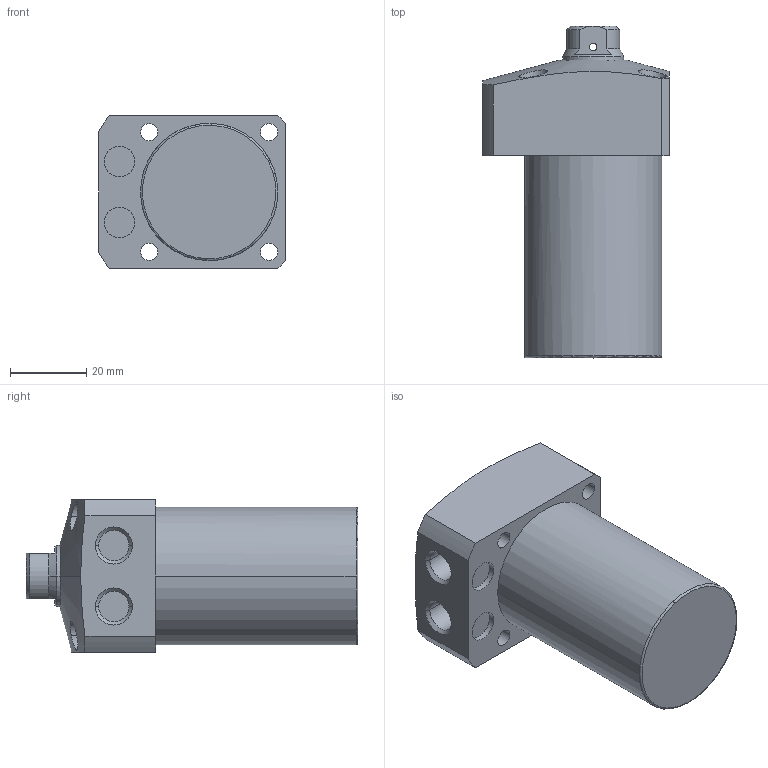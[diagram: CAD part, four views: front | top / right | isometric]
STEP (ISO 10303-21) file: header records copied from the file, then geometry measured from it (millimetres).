
FILE_DESCRIPTION((' '),'2;1');
FILE_NAME( 'TLL-036CB-045.STEP.stp', '2025-10-24T16:39:39', (' '), ('--- Datakit www.datakit.com---'), ' Datakit CrossCadWare V2024.1 Dec 21 2023', 'Mastercam 2025', ' ');
FILE_SCHEMA(('AUTOMOTIVE_DESIGN { 1 0 10303 214 1 1 1 1 }'));
Length unit declared in the file: millimetre
Products named in the file (1): TLL-036CB-045
Bounding box: 49 x 87 x 40 mm (x, y, z)
Volume: 95367.6 mm3; surface area: 16202.2 mm2
Topology: 1 solids, 1 shells, 76 faces, 227 edges, 162 vertices
Faces by surface type: cylinder 38, plane 22, cone 14, torus 2
Entity records: 5612 total; most frequent: CARTESIAN_POINT 3460, DIRECTION 454, ORIENTED_EDGE 450, EDGE_CURVE 225, AXIS2_PLACEMENT_3D 194, VERTEX_POINT 162, CIRCLE 117, EDGE_LOOP 99
